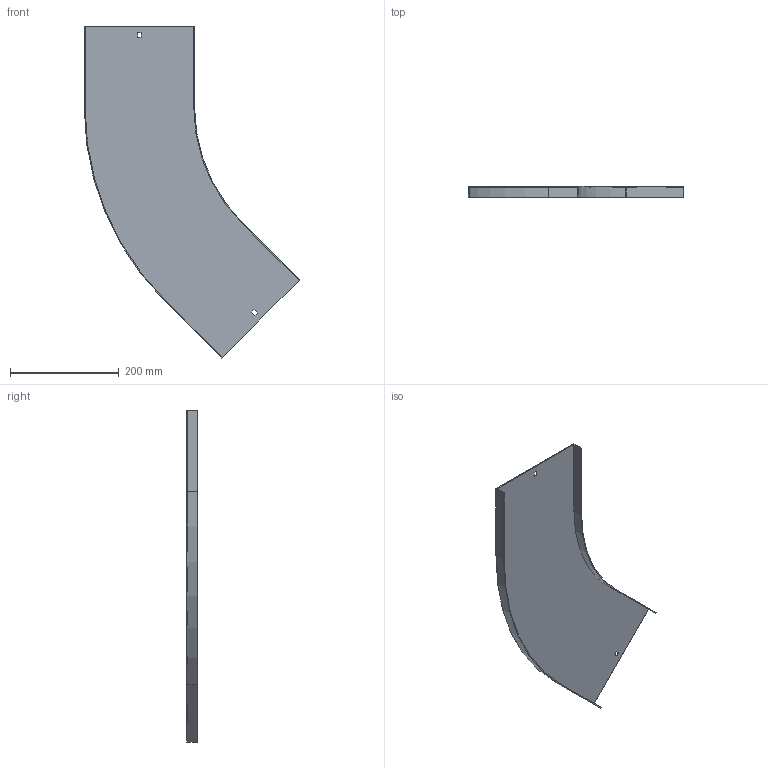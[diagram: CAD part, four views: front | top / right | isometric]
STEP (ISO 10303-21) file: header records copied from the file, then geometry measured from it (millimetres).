
FILE_DESCRIPTION (( 'STEP AP214' ), '1' );
FILE_NAME ('A2_11N3R200.step', '2025-02-21T10:50:27', ( '' ), ( '' ), 'SwSTEP 2.0', 'SolidWorks 2023', '' );
FILE_SCHEMA (( 'AUTOMOTIVE_DESIGN' ));
Length unit declared in the file: millimetre
Products named in the file (1): A2_11N3R200
Bounding box: 396.49 x 20 x 610.68 mm (x, y, z)
Volume: 220921.8 mm3; surface area: 297217.9 mm2
Topology: 1 solids, 1 shells, 26 faces, 72 edges, 48 vertices
Faces by surface type: plane 22, cylinder 4
Entity records: 855 total; most frequent: CARTESIAN_POINT 147, ORIENTED_EDGE 144, DIRECTION 134, EDGE_CURVE 72, LINE 64, VECTOR 64, VERTEX_POINT 48, AXIS2_PLACEMENT_3D 35
